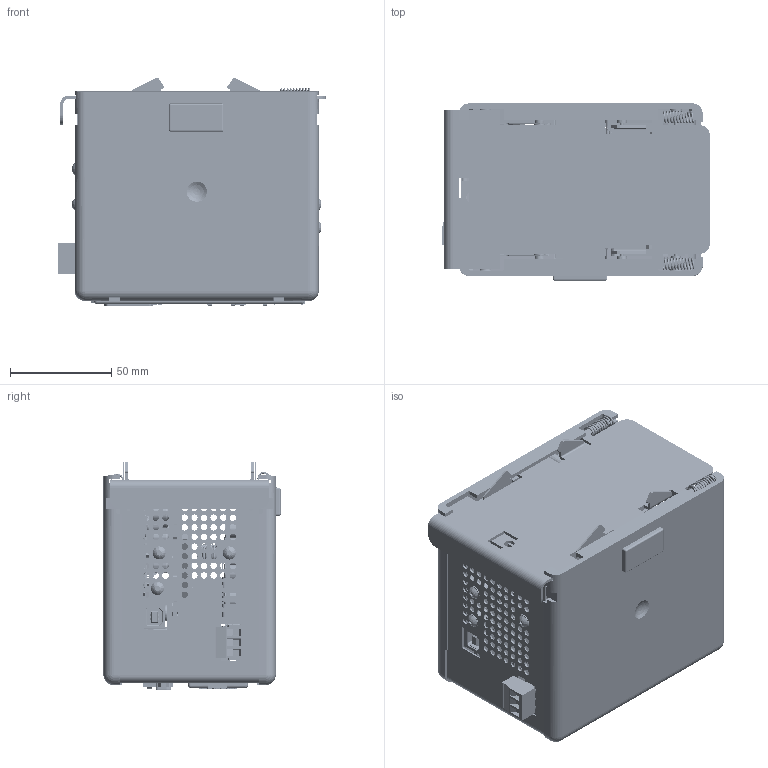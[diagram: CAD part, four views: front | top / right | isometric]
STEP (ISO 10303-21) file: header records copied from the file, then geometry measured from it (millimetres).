
FILE_DESCRIPTION( ( 'Unknown' ), '1' );
FILE_NAME( 'W:/Teams/Mech/SE data/Product_Lines/Mod Controller/CSMSTRxx_DSP/VideoStation/PTV.stp', 'Unknown', ( 'Unknown' ), ( 'Unknown' ), 'PSStep 14.0', 'Unknown', ' ' );
FILE_SCHEMA( ( 'AUTOMOTIVE_DESIGN { 1 0 10303 214 1 1 1 1 }' ) );
Products named in the file (769): PB04618_; CNBMS640; CNBFS180; HWCIT10R; CNHFR040; CNMJ8804; CNMJ6602; CNMJ6601; CNHFR041; CNEP0503; M4618X-parts; M4618X-board; PB04619_riser; CNBHS400; PB04519_; CNDS0300; HWCMT050; HD18B0KH; CNBFS641; CNMJ8803; M4519X-board; M4519X-parts; PB04619A-PSU; M4619A-parts; M4619A-PSU-board; INC35000; Assem1; M4476; CA299802; CA299801; HWSMCG10; HWSMCG10-oa0; HWSMCG10-oa1; HWSMCG10-oa2; HWSMCG10-oa3; HWSMCG10-oa4; HWSMCG10-oa5; CNTP0300; CV359100; BR466800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
Assembly tree (786 placements, depth 3):
  Assem1
    M4476
    CA299802
    CA299802
    CA299801
    CA299801
    HWSMCG10  x2
    HWSMCG10-oa0
    HWSMCG10-oa1
    HWSMCG10-oa2
    HWSMCG10-oa3
    HWSMCG10-oa4
    HWSMCG10-oa5
    CNTP0300
    CV359100
    BR466800
    HWPC1600  x2
    BR112995
    BR112995-oa6
    HWSMAP12  x2
    HWWLI003  x6
    HWSMEK10  x6
    CV466900
    PB04618_
      CNBMS640  x2
      CNBFS180
      HWCIT10R  x2
      CNHFR040
      CNMJ8804
      CNMJ8804
      CNMJ8804
      CNMJ6602
      CNMJ6602
      CNMJ6602
      CNMJ6601
      CNHFR041
      CNEP0503
      M4618X-parts
      M4618X-parts
      M4618X-parts
      M4618X-parts
      M4618X-parts
      M4618X-parts
      M4618X-parts
      M4618X-parts
      M4618X-parts
      M4618X-parts
      M4618X-parts
      M4618X-parts
      M4618X-parts
      M4618X-parts
      M4618X-parts
      M4618X-parts
      M4618X-parts
      M4618X-parts
      M4618X-parts
      M4618X-parts
      M4618X-parts
      M4618X-parts
      M4618X-parts
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Bounding box: 132.43 x 87.63 x 112.72 mm (x, y, z)
Volume: 229860.2 mm3; surface area: 310637.9 mm2
Topology: 783 solids, 784 shells, 42278 faces, 117323 edges, 75592 vertices
Faces by surface type: plane 34615, cylinder 6635, torus 476, cone 204, sphere 198, bspline 90, extrusion 60
Full cylindrical faces by diameter (mm): 0.25 x1, 0.3 x4, 0.33 x25, 0.4 x50, 0.434 x1, 0.5 x8, 0.533 x283, 0.559 x6, 0.6 x70, 0.61 x2, 0.635 x3, 0.64 x2, 0.711 x8, 0.762 x4, 0.889 x26, 0.909 x24, 0.93 x2, 1 x5, 1.001 x4, 1.016 x8, 1.067 x4, 1.092 x34, 1.1 x4, 1.151 x1, 1.168 x20, 1.191 x4, 1.2 x4, 1.219 x4, 1.245 x76, 1.27 x4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
Entity records: 1539120 total; most frequent: CARTESIAN_POINT 212581, ORIENTED_EDGE 194900, DIRECTION 183307, EDGE_CURVE 97450, VECTOR 83701, LINE 83641, VERTEX_POINT 63546, STYLED_ITEM 55881
